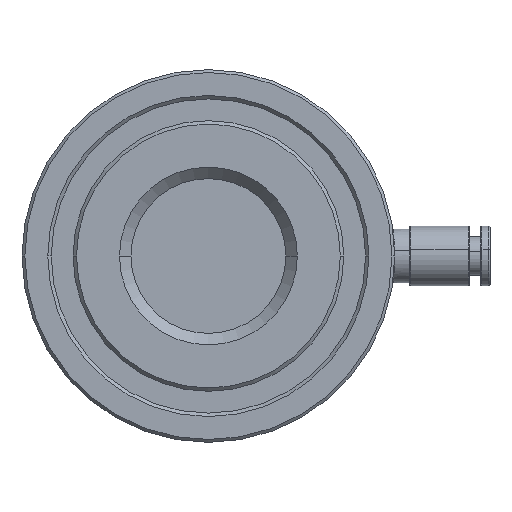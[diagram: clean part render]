
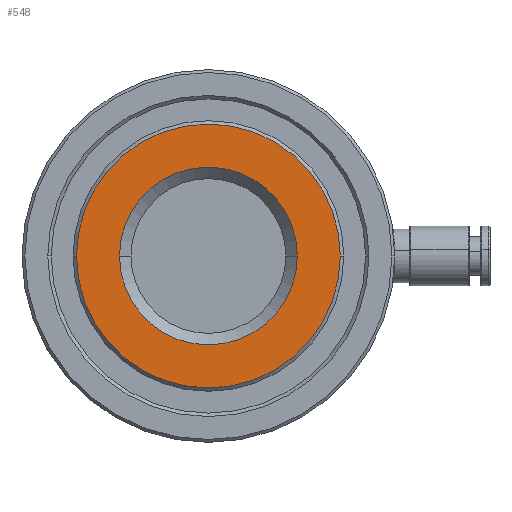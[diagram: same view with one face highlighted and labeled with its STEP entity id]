
A CAD part, front view. The second image highlights one B-rep face of the part: STEP entity #548.
In plain terms, the highlighted planar face has unit normal (0, -1, 0).
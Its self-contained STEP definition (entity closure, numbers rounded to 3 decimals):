
#11 = CARTESIAN_POINT ( 'NONE',  ( 0., -45., 0. ) ) ;
#267 = DIRECTION ( 'NONE',  ( -1., 0., 0. ) ) ;
#546 = DIRECTION ( 'NONE',  ( -1., 0., 0. ) ) ;
#548 = ADVANCED_FACE ( 'NONE', ( #1883, #3303 ), #1170, .T. ) ;
#629 = CIRCLE ( 'NONE', #6134, 15.5 ) ;
#767 = AXIS2_PLACEMENT_3D ( 'NONE', #1450, #5182, #1980 ) ;
#781 = CARTESIAN_POINT ( 'NONE',  ( -15.5, -45., 0. ) ) ;
#904 = EDGE_CURVE ( 'NONE', #5240, #4872, #629, .T. ) ;
#1170 = PLANE ( 'NONE',  #4540 ) ;
#1202 = DIRECTION ( 'NONE',  ( -1., 0., 0. ) ) ;
#1450 = CARTESIAN_POINT ( 'NONE',  ( 0., -45., 0. ) ) ;
#1732 = CARTESIAN_POINT ( 'NONE',  ( 0., -45., 0. ) ) ;
#1883 = FACE_OUTER_BOUND ( 'NONE', #3793, .T. ) ;
#1980 = DIRECTION ( 'NONE',  ( -1., 0., 0. ) ) ;
#2044 = EDGE_CURVE ( 'NONE', #4149, #6393, #4452, .T. ) ;
#2603 = CARTESIAN_POINT ( 'NONE',  ( -23., -45., 0. ) ) ;
#2697 = AXIS2_PLACEMENT_3D ( 'NONE', #1732, #4937, #1202 ) ;
#2750 = ORIENTED_EDGE ( 'NONE', *, *, #5951, .F. ) ;
#3029 = CIRCLE ( 'NONE', #767, 23. ) ;
#3055 = DIRECTION ( 'NONE',  ( 1., 0., 0. ) ) ;
#3096 = CARTESIAN_POINT ( 'NONE',  ( -23., -45., 0. ) ) ;
#3213 = CIRCLE ( 'NONE', #6118, 15.5 ) ;
#3303 = FACE_BOUND ( 'NONE', #5261, .T. ) ;
#3319 = ORIENTED_EDGE ( 'NONE', *, *, #904, .T. ) ;
#3432 = ORIENTED_EDGE ( 'NONE', *, *, #2044, .F. ) ;
#3446 = DIRECTION ( 'NONE',  ( 0., 1., 0. ) ) ;
#3727 = DIRECTION ( 'NONE',  ( 0., 1., 0. ) ) ;
#3749 = ORIENTED_EDGE ( 'NONE', *, *, #3867, .T. ) ;
#3793 = EDGE_LOOP ( 'NONE', ( #3432, #2750 ) ) ;
#3867 = EDGE_CURVE ( 'NONE', #4872, #5240, #3213, .T. ) ;
#3945 = CARTESIAN_POINT ( 'NONE',  ( 23., -45., 0. ) ) ;
#4149 = VERTEX_POINT ( 'NONE', #3096 ) ;
#4276 = CARTESIAN_POINT ( 'NONE',  ( 15.5, -45., 0. ) ) ;
#4452 = CIRCLE ( 'NONE', #2697, 23. ) ;
#4540 = AXIS2_PLACEMENT_3D ( 'NONE', #2603, #5967, #3055 ) ;
#4872 = VERTEX_POINT ( 'NONE', #4276 ) ;
#4937 = DIRECTION ( 'NONE',  ( 0., 1., 0. ) ) ;
#5182 = DIRECTION ( 'NONE',  ( 0., 1., 0. ) ) ;
#5240 = VERTEX_POINT ( 'NONE', #781 ) ;
#5261 = EDGE_LOOP ( 'NONE', ( #3749, #3319 ) ) ;
#5951 = EDGE_CURVE ( 'NONE', #6393, #4149, #3029, .T. ) ;
#5967 = DIRECTION ( 'NONE',  ( 0., -1., 0. ) ) ;
#6118 = AXIS2_PLACEMENT_3D ( 'NONE', #6630, #3446, #267 ) ;
#6134 = AXIS2_PLACEMENT_3D ( 'NONE', #11, #3727, #546 ) ;
#6393 = VERTEX_POINT ( 'NONE', #3945 ) ;
#6630 = CARTESIAN_POINT ( 'NONE',  ( 0., -45., 0. ) ) ;
